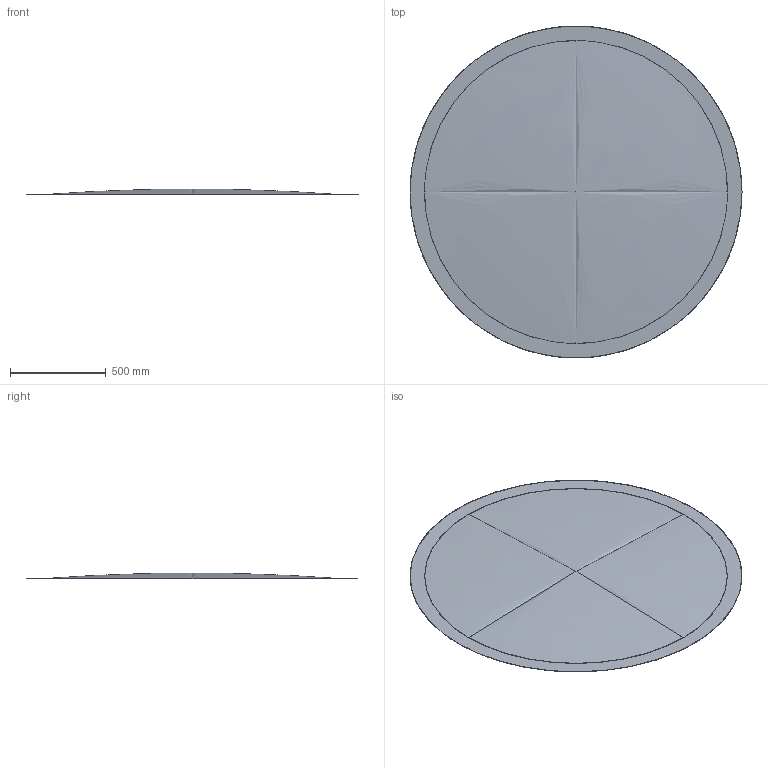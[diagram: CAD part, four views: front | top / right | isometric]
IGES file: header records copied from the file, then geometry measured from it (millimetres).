
Start section: Comment
Global section: file name: window.iges; native system:  By UGS Corp.; preprocessor: XPlus GENERIC/IGES 3.0; author: Author; organization: Title; date: 20090504.133359; units: millimetre
Bounding box: 1732.4 x 1730.25 x 31.02 mm (x, y, z)
Surface area: 4725467.5 mm2 (no closed solid volume)
Topology: 0 solids, 0 shells, 12 faces, 52 edges, 44 vertices
Faces by surface type: bspline 12
